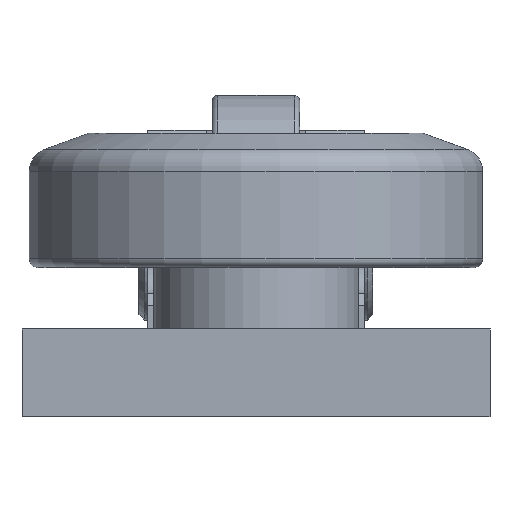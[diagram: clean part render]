
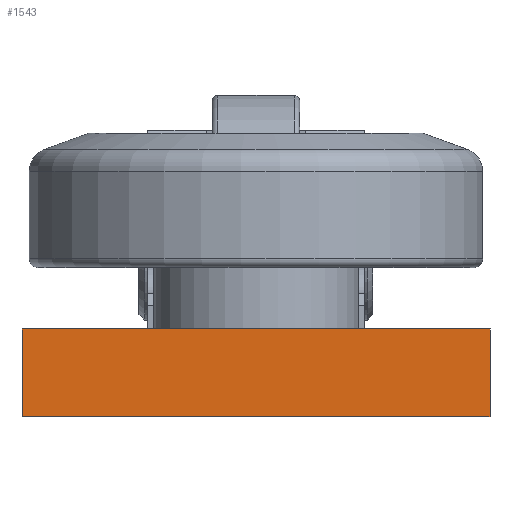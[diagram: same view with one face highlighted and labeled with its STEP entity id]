
A CAD part, left-side view. The second image highlights one B-rep face of the part: STEP entity #1543.
In plain terms, the highlighted planar face has unit normal (-1, 0, 0).
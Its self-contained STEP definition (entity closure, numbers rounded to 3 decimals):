
#482=CARTESIAN_POINT('',(0.,80.0,15.0));
#483=VERTEX_POINT('',#482);
#490=CARTESIAN_POINT('',(0.0,0.0,15.0));
#491=VERTEX_POINT('',#490);
#492=CARTESIAN_POINT('',(0.0,0.0,15.0));
#493=DIRECTION('',(0.0,1.0,0.0));
#494=VECTOR('',#493,80.0);
#495=LINE('',#492,#494);
#496=EDGE_CURVE('',#491,#483,#495,.T.);
#1324=CARTESIAN_POINT('',(0.0,0.0,0.0));
#1325=VERTEX_POINT('',#1324);
#1332=CARTESIAN_POINT('',(0.,80.0,0.0));
#1333=VERTEX_POINT('',#1332);
#1334=CARTESIAN_POINT('',(0.0,0.0,0.0));
#1335=DIRECTION('',(0.0,1.0,0.0));
#1336=VECTOR('',#1335,80.0);
#1337=LINE('',#1334,#1336);
#1338=EDGE_CURVE('',#1325,#1333,#1337,.T.);
#1489=CARTESIAN_POINT('',(0.,80.0,0.0));
#1490=DIRECTION('',(0.0,0.0,1.0));
#1491=VECTOR('',#1490,15.0);
#1492=LINE('',#1489,#1491);
#1493=EDGE_CURVE('',#1333,#483,#1492,.T.);
#1521=CARTESIAN_POINT('',(0.0,0.0,0.0));
#1522=DIRECTION('',(0.0,0.0,1.0));
#1523=VECTOR('',#1522,15.0);
#1524=LINE('',#1521,#1523);
#1525=EDGE_CURVE('',#1325,#491,#1524,.T.);
#1532=CARTESIAN_POINT('',(0.0,0.0,0.0));
#1533=DIRECTION('',(-1.0,0.0,0.0));
#1534=DIRECTION('',(0.0,0.0,1.0));
#1535=AXIS2_PLACEMENT_3D('',#1532,#1533,#1534);
#1536=PLANE('',#1535);
#1537=ORIENTED_EDGE('',*,*,#496,.T.);
#1538=ORIENTED_EDGE('',*,*,#1493,.F.);
#1539=ORIENTED_EDGE('',*,*,#1338,.F.);
#1540=ORIENTED_EDGE('',*,*,#1525,.T.);
#1541=EDGE_LOOP('',(#1537,#1538,#1539,#1540));
#1542=FACE_OUTER_BOUND('',#1541,.T.);
#1543=ADVANCED_FACE('',(#1542),#1536,.T.);
